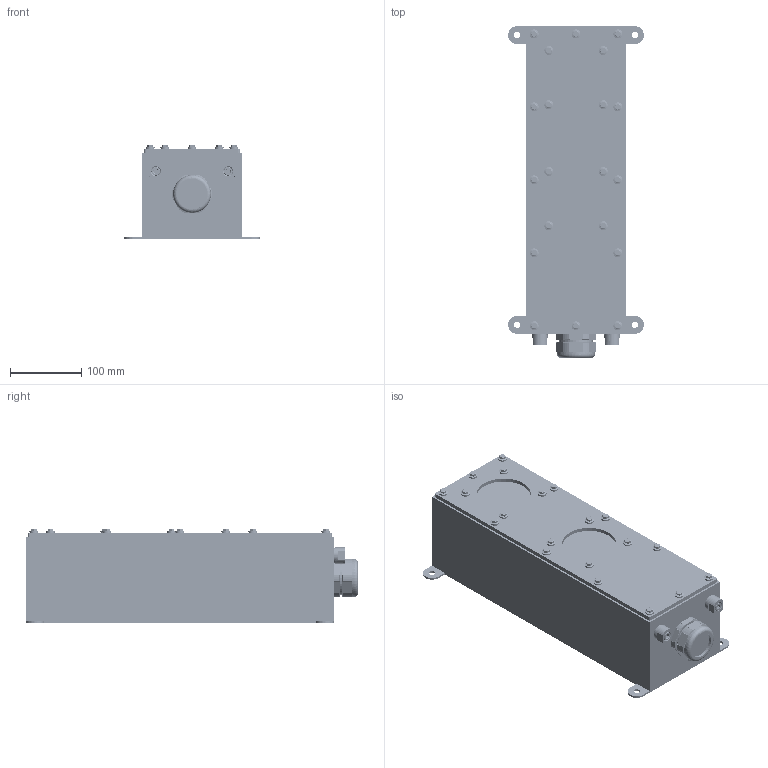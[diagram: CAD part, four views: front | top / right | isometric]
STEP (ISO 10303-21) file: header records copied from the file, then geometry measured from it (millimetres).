
FILE_DESCRIPTION (( 'STEP AP203' ), '1' );
FILE_NAME ('LL-FI.STEP', '2023-03-06T19:24:03', ( '' ), ( '' ), 'SwSTEP 2.0', 'SolidWorks 2021', '' );
FILE_SCHEMA (( 'CONFIG_CONTROL_DESIGN' ));
Length unit declared in the file: inch
Products named in the file (31): 800001; 500431; PG36-I01; 25058.01.02_CAD_Gocator-2670_312670A-X-B-01-S_Body; PG11-S01; 91292A811_91292A811; PG36-B01; 400102; PG36-S01; PG36-01-01-01-03; 201748; PG36-N03; 800005; 201746; 201747; PG11-N03; 25059.01.03_CAD_Gocator-2690_312690A-X-R-01-S_Body; 800023; 201751; 400651; SP-M5-2; 800009; LL-FI; 800004; 201750; 400650; 800020; 4452K542_4452K542; 25057.01.02_CAD_Gocator-2650_312650A-X-B-01-S_Body; 93625A200; 201749
Assembly tree (86 placements, depth 3):
  LL-FI
    201747
      201748
      SP-M5-2  x12
      800001  x3
    201750
      201751
      SP-M5-2  x3
    201749
    400651
    PG36-01-01-01-03
      PG36-B01
      PG36-I01
      PG36-S01
      PG36-N03
    201746  x2
    400650  x4
    500431  x2
    93625A200  x11
    800023  x8
      800020
      400102
    800009  x2
    PG11-S01  x2
    PG11-N03  x2
    4452K542_4452K542  x2
    800004  x12
      800005
      400102
    91292A811_91292A811  x3
    25057.01.02_CAD_Gocator-2650_312650A-X-B-01-S_Body
    25058.01.02_CAD_Gocator-2670_312670A-X-B-01-S_Body
    25059.01.03_CAD_Gocator-2690_312690A-X-R-01-S_Body
Bounding box: 190.5 x 465.8 x 132.56 mm (x, y, z)
Volume: 5358405.5 mm3; surface area: 1143223.7 mm2
Topology: 111 solids, 231 shells, 6792 faces, 17519 edges, 11655 vertices
Faces by surface type: plane 2793, cylinder 2370, cone 1079, bspline 502, torus 48
Full cylindrical faces by diameter (mm): 4 x11, 4.2 x3, 5 x156, 5.5 x3, 5.556 x16, 5.8 x40, 6.35 x15, 8.5 x3, 9 x4, 10.516 x2, 10.518 x2, 11.883 x2, 12 x20, 12.62 x8, 12.625 x12, 17.272 x2, 18.796 x4, 19.05 x2, 21.844 x2, 22.86 x2, 36.5 x1, 37 x1, 41.5 x1, 41.8 x1, 45 x1, 47 x2, 48 x1, 55 x1, 76.2 x8
Entity records: 186668 total; most frequent: CARTESIAN_POINT 75148, ORIENTED_EDGE 22192, DIRECTION 21489, EDGE_CURVE 11096, AXIS2_PLACEMENT_3D 7972, VERTEX_POINT 7699, VECTOR 5545, LINE 5545
